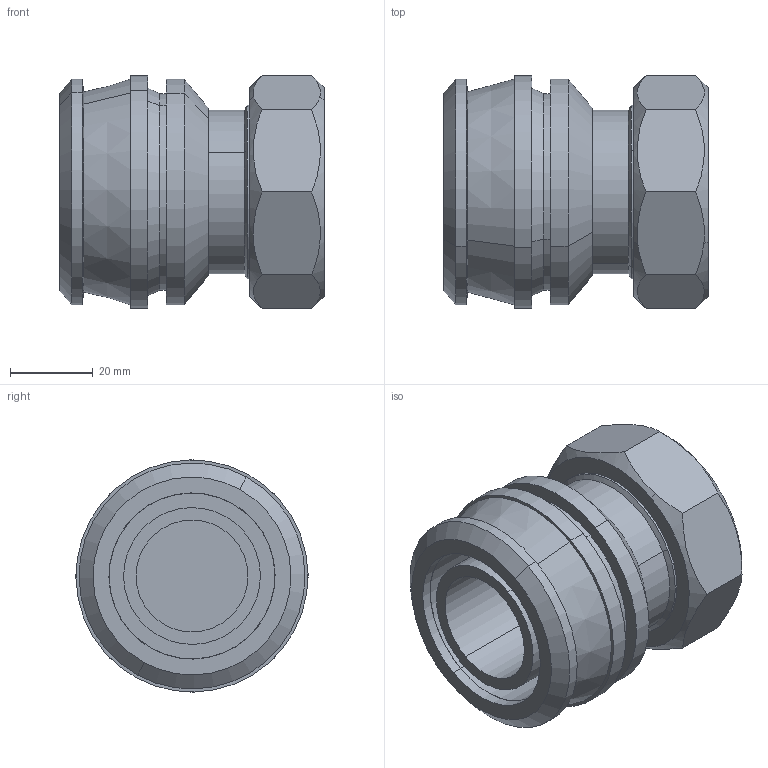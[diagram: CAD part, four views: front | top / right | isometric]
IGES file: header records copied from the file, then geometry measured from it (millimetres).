
Start section: 3D InterOp IGES (Version 25 0 1), Spatial Corp. Copyright (c) 1999-2007.
Global section: file name: pim0006814.igs; native system: Spatial Corp.; preprocessor: 3D InterOp ACIS/IGES; author: CAD-PIM; organization: TransMagic, Inc.; date: 20150618.153009; units: millimetre
Bounding box: 63.75 x 56.28 x 56.28 mm (x, y, z)
Volume: 86390.8 mm3; surface area: 26453.2 mm2
Topology: 1 solids, 1 shells, 60 faces, 163 edges, 115 vertices
Faces by surface type: cylinder 20, plane 20, cone 14, bspline 6
